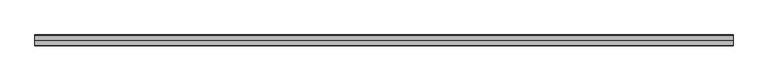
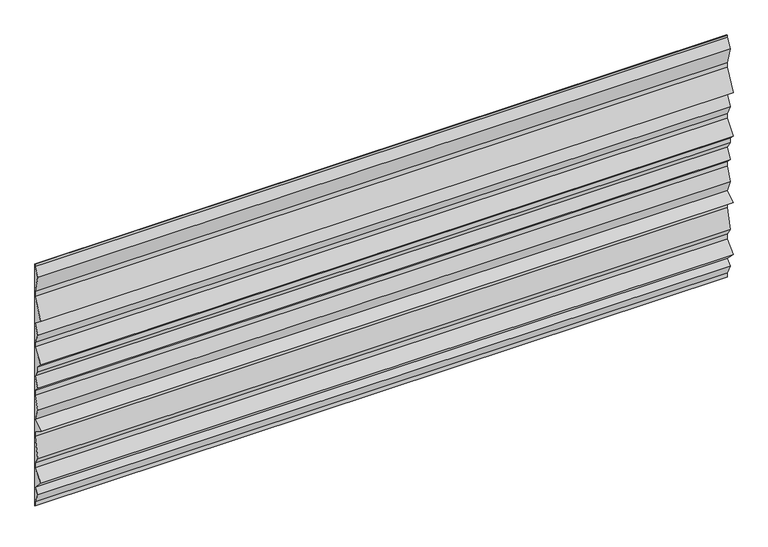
"""IFC4 building model written with IfcOpenShell, lengths in millimetres: plate geometry, ATELIERS 3S_GLACE PISSAILLAS 1000_HORIZONTAL : AZURO."""

from ifc_helpers import new_model, si_unit, frame, origin, place, context, project, spatial, polyline, outline, extrude, source, transform, mapped, element, save


def plate_263a0a5c(model_context):
    return source(origin(), model_context, "Body", "SweptSolid", [
        extrude(outline(polyline([(-0.8, 0.0), (-0.8, 16.9163895), (-20.9135393, 57.5498441), (-1.0660999, 76.9962838), (-41.0606602, 116.9908441), (-0.75, 157.3015043), (-0.75, 176.7637624), (-20.8080747, 206.8508744), (-0.75, 287.0831733), (-0.75, 306.5751584), (-41.4150972, 331.9908441), (-0.9292392, 357.2945053), (-20.8077747, 406.9908441), (-0.75, 457.1352809), (-0.75, 476.6801839), (-20.9125704, 496.8427543), (-0.8654665, 536.9369621), (-20.75, 566.7637624), (-20.75, 586.6801839), (-41.009736, 606.9399199), (-0.75, 656.2580964), (-0.75, 675.8137931), (-20.8385255, 715.9908441), (-0.9507458, 755.7664035), (-40.9507458, 785.7664035), (-0.75, 866.1678951), (-0.75, 885.8862432), (-20.8096981, 956.4025169), (-0.8, 990.1124394), (-0.8, 1000.0), (0.0, 1000.0), (0.0, 0.0), (-0.8, 0.0)])), frame((-1352.0, 0.0, 0.0), z_axis=(1.0, 0.0, 0.0), x_axis=(0.0, 1.0, 0.0)), (0.0, 0.0, 1.0), 2704.0),
    ])


if __name__ == "__main__":
    model = new_model("IFC4")
    model_context = context("Model", 3, world=origin())
    ifc_project = project(units=[si_unit("LENGTHUNIT", "METRE", prefix="MILLI")], contexts=[model_context])
    site = spatial("IfcSite", under=ifc_project)
    building = spatial("IfcBuilding", under=site)
    placement = place(None, origin())
    plate_shape = plate_263a0a5c(model_context)
    element("IfcPlate", 1, ObjectType="ATELIERS 3S_GLACE PISSAILLAS 1000_HORIZONTAL : AZURO", at=placement, inside=building, context=model_context, shape_type="MappedRepresentation", body=[
        mapped(plate_shape, transform((0.0, 0.0, 0.0), x_axis=(1.0, 0.0, 0.0), y_axis=(0.0, 1.0, 0.0), z_axis=(0.0, 0.0, 1.0))),
    ])
    save(model, "model.ifc")
